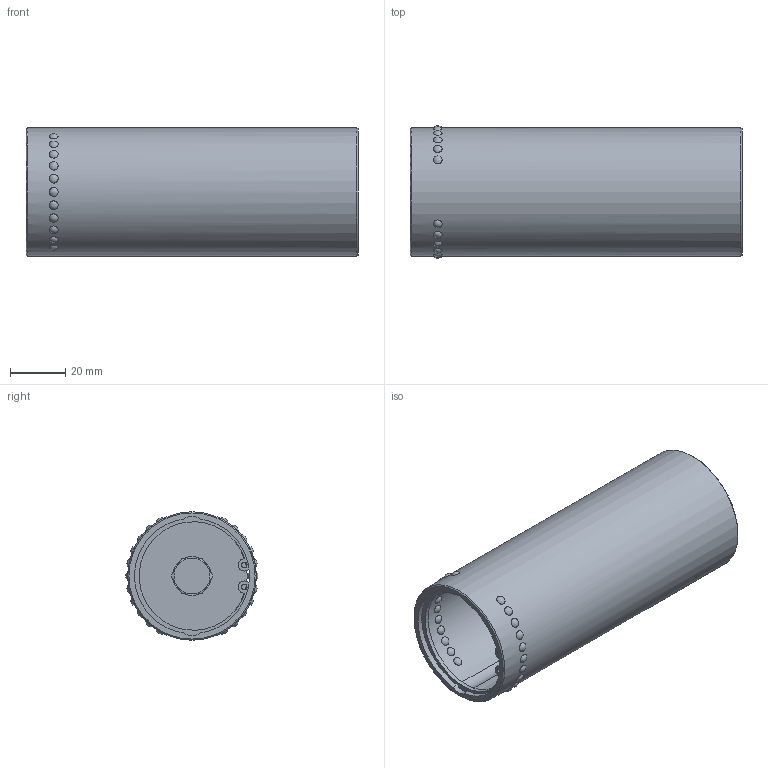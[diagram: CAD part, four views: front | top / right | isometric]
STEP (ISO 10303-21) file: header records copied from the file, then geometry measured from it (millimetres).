
FILE_DESCRIPTION(/* description */ ('Impex Ready, www.impex-ready.pl'),/* implementation_level */ '2;1');
FILE_NAME(/* name */ 'C:\Users\VIKKY\Nextcloud\SM\projekt 10 - części na stronę internetową\Pliki_3D_new\279 Koszyki GSAB\279 GSAB_STEP\GSAB40120.ipt.step',/* time_stamp */ '2022-01-19T06:34:04+01:00',/* author */ ('SM'),/* organization */ (''),/* preprocessor_version */ 'ST-DEVELOPER v18.1',/* originating_system */ 'Autodesk Inventor 2021',/* authorisation */ '');
FILE_SCHEMA (('AUTOMOTIVE_DESIGN { 1 0 10303 214 3 1 1 }'));
Length unit declared in the file: millimetre
Products named in the file (1): GSAB40120
Bounding box: 120 x 48 x 46.4 mm (x, y, z)
Volume: 43642.6 mm3; surface area: 39128 mm2
Topology: 5 solids, 5 shells, 99 faces, 172 edges, 129 vertices
Faces by surface type: sphere 44, cylinder 24, plane 22, cone 9
Full cylindrical faces by diameter (mm): 2 x2, 8 x1, 8.2 x1, 12 x2, 14 x1, 41.6 x1, 43.6 x1, 46.4 x1
Entity records: 4230 total; most frequent: CARTESIAN_POINT 2057, DIRECTION 375, ORIENTED_EDGE 344, EDGE_CURVE 172, AXIS2_PLACEMENT_3D 163, EDGE_LOOP 155, VERTEX_POINT 129, STYLED_ITEM 104
